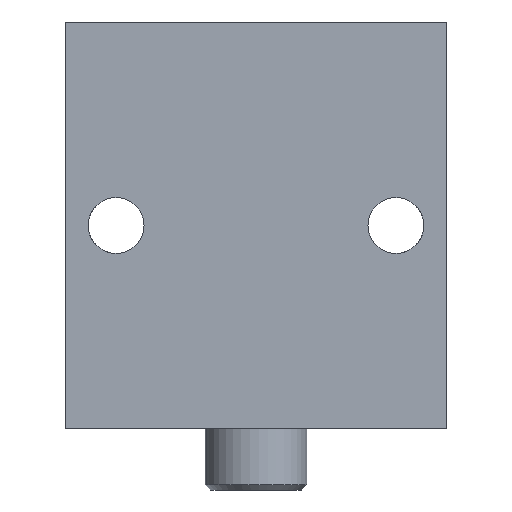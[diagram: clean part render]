
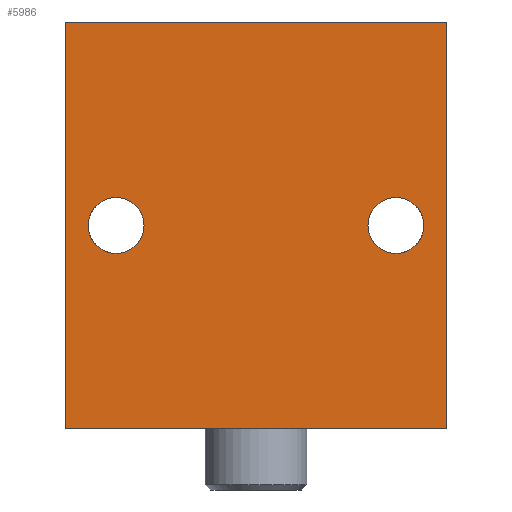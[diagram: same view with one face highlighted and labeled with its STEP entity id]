
A CAD part, front view. The second image highlights one B-rep face of the part: STEP entity #5986.
In plain terms, the highlighted planar face has unit normal (0, -1, 0).
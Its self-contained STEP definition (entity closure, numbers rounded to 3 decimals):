
#35 = CARTESIAN_POINT ( 'NONE',  ( 27.5, 0., 13. ) ) ;
#109 = EDGE_LOOP ( 'NONE', ( #12169, #4925 ) ) ;
#159 = DIRECTION ( 'NONE',  ( -1., 0., 0. ) ) ;
#168 = VECTOR ( 'NONE', #159, 1000. ) ;
#272 = CARTESIAN_POINT ( 'NONE',  ( 37.5, 0., -32.5 ) ) ;
#1127 = CIRCLE ( 'NONE', #4169, 5.5 ) ;
#1640 = VERTEX_POINT ( 'NONE', #5203 ) ;
#1680 = VERTEX_POINT ( 'NONE', #4770 ) ;
#1708 = LINE ( 'NONE', #5354, #9581 ) ;
#1770 = EDGE_CURVE ( 'NONE', #3085, #7575, #7224, .T. ) ;
#1928 = EDGE_LOOP ( 'NONE', ( #11251, #9379 ) ) ;
#3085 = VERTEX_POINT ( 'NONE', #35 ) ;
#3091 = DIRECTION ( 'NONE',  ( 0., 1., 0. ) ) ;
#3210 = ORIENTED_EDGE ( 'NONE', *, *, #9862, .F. ) ;
#3311 = DIRECTION ( 'NONE',  ( 0., 0., 1. ) ) ;
#3327 = DIRECTION ( 'NONE',  ( 0., 1., 0. ) ) ;
#3333 = CARTESIAN_POINT ( 'NONE',  ( 27.5, 0., 7.5 ) ) ;
#3623 = VERTEX_POINT ( 'NONE', #14391 ) ;
#3752 = CARTESIAN_POINT ( 'NONE',  ( -37.5, 0., 47.5 ) ) ;
#4051 = LINE ( 'NONE', #14640, #168 ) ;
#4169 = AXIS2_PLACEMENT_3D ( 'NONE', #12322, #4786, #13659 ) ;
#4202 = EDGE_CURVE ( 'NONE', #1640, #5386, #1127, .T. ) ;
#4413 = PLANE ( 'NONE',  #8119 ) ;
#4547 = LINE ( 'NONE', #9768, #10827 ) ;
#4770 = CARTESIAN_POINT ( 'NONE',  ( -37.5, 0., -32.5 ) ) ;
#4786 = DIRECTION ( 'NONE',  ( 0., 1., 0. ) ) ;
#4925 = ORIENTED_EDGE ( 'NONE', *, *, #4202, .T. ) ;
#5203 = CARTESIAN_POINT ( 'NONE',  ( -27.5, 0., 2. ) ) ;
#5247 = ORIENTED_EDGE ( 'NONE', *, *, #5977, .F. ) ;
#5354 = CARTESIAN_POINT ( 'NONE',  ( -37.5, 0., -32.5 ) ) ;
#5386 = VERTEX_POINT ( 'NONE', #6840 ) ;
#5789 = LINE ( 'NONE', #272, #8387 ) ;
#5977 = EDGE_CURVE ( 'NONE', #9309, #1680, #4051, .T. ) ;
#5986 = ADVANCED_FACE ( 'NONE', ( #7535, #13841, #10762 ), #4413, .F. ) ;
#6840 = CARTESIAN_POINT ( 'NONE',  ( -27.5, 0., 13. ) ) ;
#7018 = ORIENTED_EDGE ( 'NONE', *, *, #14428, .F. ) ;
#7051 = EDGE_CURVE ( 'NONE', #5386, #1640, #14856, .T. ) ;
#7128 = CARTESIAN_POINT ( 'NONE',  ( 27.5, 0., 2. ) ) ;
#7224 = CIRCLE ( 'NONE', #9684, 5.5 ) ;
#7485 = DIRECTION ( 'NONE',  ( 0., 1., 0. ) ) ;
#7535 = FACE_BOUND ( 'NONE', #109, .T. ) ;
#7575 = VERTEX_POINT ( 'NONE', #7128 ) ;
#7839 = DIRECTION ( 'NONE',  ( 0., 1., 0. ) ) ;
#8102 = ORIENTED_EDGE ( 'NONE', *, *, #14354, .F. ) ;
#8119 = AXIS2_PLACEMENT_3D ( 'NONE', #15970, #3091, #12054 ) ;
#8387 = VECTOR ( 'NONE', #8461, 1000. ) ;
#8461 = DIRECTION ( 'NONE',  ( 0., 0., -1. ) ) ;
#9309 = VERTEX_POINT ( 'NONE', #9805 ) ;
#9379 = ORIENTED_EDGE ( 'NONE', *, *, #13877, .T. ) ;
#9581 = VECTOR ( 'NONE', #14245, 1000. ) ;
#9684 = AXIS2_PLACEMENT_3D ( 'NONE', #3333, #3327, #3311 ) ;
#9768 = CARTESIAN_POINT ( 'NONE',  ( -37.5, 0., 47.5 ) ) ;
#9805 = CARTESIAN_POINT ( 'NONE',  ( 37.5, 0., -32.5 ) ) ;
#9862 = EDGE_CURVE ( 'NONE', #1680, #12308, #1708, .T. ) ;
#10762 = FACE_OUTER_BOUND ( 'NONE', #12065, .T. ) ;
#10827 = VECTOR ( 'NONE', #16130, 1000. ) ;
#11251 = ORIENTED_EDGE ( 'NONE', *, *, #1770, .T. ) ;
#12054 = DIRECTION ( 'NONE',  ( 0., 0., 1. ) ) ;
#12065 = EDGE_LOOP ( 'NONE', ( #3210, #5247, #8102, #7018 ) ) ;
#12169 = ORIENTED_EDGE ( 'NONE', *, *, #7051, .T. ) ;
#12308 = VERTEX_POINT ( 'NONE', #3752 ) ;
#12322 = CARTESIAN_POINT ( 'NONE',  ( -27.5, 0., 7.5 ) ) ;
#13659 = DIRECTION ( 'NONE',  ( 0., 0., 1. ) ) ;
#13840 = AXIS2_PLACEMENT_3D ( 'NONE', #15085, #7485, #16392 ) ;
#13841 = FACE_BOUND ( 'NONE', #1928, .T. ) ;
#13877 = EDGE_CURVE ( 'NONE', #7575, #3085, #15338, .T. ) ;
#14245 = DIRECTION ( 'NONE',  ( 0., 0., 1. ) ) ;
#14354 = EDGE_CURVE ( 'NONE', #3623, #9309, #5789, .T. ) ;
#14391 = CARTESIAN_POINT ( 'NONE',  ( 37.5, 0., 47.5 ) ) ;
#14428 = EDGE_CURVE ( 'NONE', #12308, #3623, #4547, .T. ) ;
#14640 = CARTESIAN_POINT ( 'NONE',  ( -37.5, 0., -32.5 ) ) ;
#14856 = CIRCLE ( 'NONE', #15432, 5.5 ) ;
#15085 = CARTESIAN_POINT ( 'NONE',  ( 27.5, 0., 7.5 ) ) ;
#15338 = CIRCLE ( 'NONE', #13840, 5.5 ) ;
#15416 = CARTESIAN_POINT ( 'NONE',  ( -27.5, 0., 7.5 ) ) ;
#15432 = AXIS2_PLACEMENT_3D ( 'NONE', #15416, #7839, #16748 ) ;
#15970 = CARTESIAN_POINT ( 'NONE',  ( 0., 0., 0. ) ) ;
#16130 = DIRECTION ( 'NONE',  ( 1., 0., 0. ) ) ;
#16392 = DIRECTION ( 'NONE',  ( 0., 0., 1. ) ) ;
#16748 = DIRECTION ( 'NONE',  ( 0., 0., 1. ) ) ;
